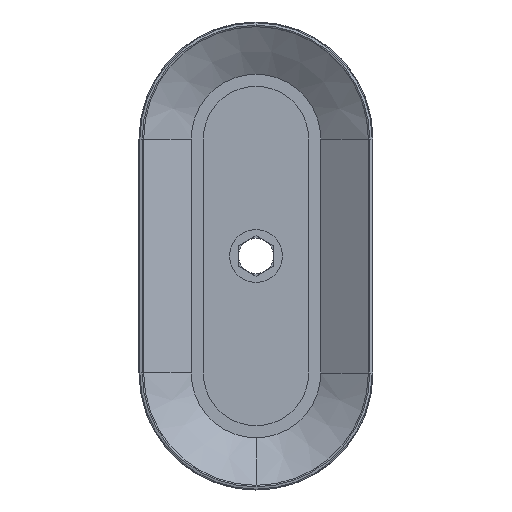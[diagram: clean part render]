
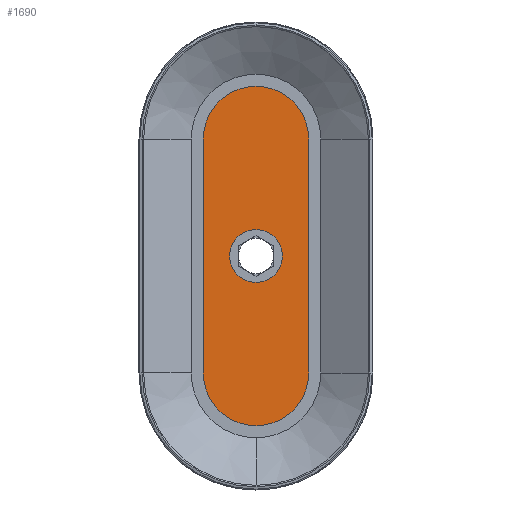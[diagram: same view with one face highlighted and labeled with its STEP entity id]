
A CAD part, front view. The second image highlights one B-rep face of the part: STEP entity #1690.
In plain terms, the highlighted planar face has unit normal (0, -1, 0).
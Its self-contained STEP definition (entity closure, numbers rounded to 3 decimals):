
#145 = VECTOR ( 'NONE', #12159, 1000. ) ;
#239 = DIRECTION ( 'NONE',  ( 0., 1., 0. ) ) ;
#353 = ORIENTED_EDGE ( 'NONE', *, *, #705, .F. ) ;
#398 = EDGE_CURVE ( 'NONE', #5677, #4356, #3032, .T. ) ;
#684 = CIRCLE ( 'NONE', #9903, 4.5 ) ;
#705 = EDGE_CURVE ( 'NONE', #4356, #10436, #730, .T. ) ;
#730 = LINE ( 'NONE', #1007, #145 ) ;
#1007 = CARTESIAN_POINT ( 'NONE',  ( -9., 9., 20. ) ) ;
#1163 = CARTESIAN_POINT ( 'NONE',  ( 0., 9., -20. ) ) ;
#1348 = AXIS2_PLACEMENT_3D ( 'NONE', #4961, #12177, #1954 ) ;
#1626 = EDGE_LOOP ( 'NONE', ( #9231, #2429, #8834, #2498, #353 ) ) ;
#1690 = ADVANCED_FACE ( 'NONE', ( #5406, #4408 ), #3430, .F. ) ;
#1954 = DIRECTION ( 'NONE',  ( 1., 0., 0. ) ) ;
#2207 = DIRECTION ( 'NONE',  ( 1., 0., 0. ) ) ;
#2235 = CARTESIAN_POINT ( 'NONE',  ( -9., 9., 20. ) ) ;
#2410 = DIRECTION ( 'NONE',  ( 0., 0., 1. ) ) ;
#2412 = AXIS2_PLACEMENT_3D ( 'NONE', #7272, #239, #9519 ) ;
#2429 = ORIENTED_EDGE ( 'NONE', *, *, #7472, .F. ) ;
#2498 = ORIENTED_EDGE ( 'NONE', *, *, #7280, .F. ) ;
#2857 = CIRCLE ( 'NONE', #7548, 9. ) ;
#2862 = VERTEX_POINT ( 'NONE', #10794 ) ;
#3032 = CIRCLE ( 'NONE', #8168, 9. ) ;
#3096 = EDGE_CURVE ( 'NONE', #9242, #2862, #12065, .T. ) ;
#3257 = DIRECTION ( 'NONE',  ( 0., 1., 0. ) ) ;
#3430 = PLANE ( 'NONE',  #6942 ) ;
#4325 = LINE ( 'NONE', #12549, #8654 ) ;
#4356 = VERTEX_POINT ( 'NONE', #6228 ) ;
#4408 = FACE_BOUND ( 'NONE', #8193, .T. ) ;
#4739 = DIRECTION ( 'NONE',  ( 0., 1., 0. ) ) ;
#4961 = CARTESIAN_POINT ( 'NONE',  ( 0., 9., 0. ) ) ;
#5232 = DIRECTION ( 'NONE',  ( 0., 0., 1. ) ) ;
#5406 = FACE_OUTER_BOUND ( 'NONE', #1626, .T. ) ;
#5549 = CARTESIAN_POINT ( 'NONE',  ( 0., 9., 20. ) ) ;
#5677 = VERTEX_POINT ( 'NONE', #9828 ) ;
#6057 = EDGE_CURVE ( 'NONE', #6511, #7340, #7758, .T. ) ;
#6223 = EDGE_CURVE ( 'NONE', #7340, #6511, #684, .T. ) ;
#6228 = CARTESIAN_POINT ( 'NONE',  ( -9., 9., -20. ) ) ;
#6388 = ORIENTED_EDGE ( 'NONE', *, *, #6223, .T. ) ;
#6511 = VERTEX_POINT ( 'NONE', #13310 ) ;
#6942 = AXIS2_PLACEMENT_3D ( 'NONE', #9378, #12358, #2410 ) ;
#7272 = CARTESIAN_POINT ( 'NONE',  ( 0., 9., 20. ) ) ;
#7280 = EDGE_CURVE ( 'NONE', #10436, #9242, #2857, .T. ) ;
#7340 = VERTEX_POINT ( 'NONE', #12913 ) ;
#7472 = EDGE_CURVE ( 'NONE', #2862, #5677, #4325, .T. ) ;
#7548 = AXIS2_PLACEMENT_3D ( 'NONE', #5549, #4739, #7693 ) ;
#7693 = DIRECTION ( 'NONE',  ( 0., 0., 1. ) ) ;
#7758 = CIRCLE ( 'NONE', #1348, 4.5 ) ;
#8168 = AXIS2_PLACEMENT_3D ( 'NONE', #1163, #3257, #5232 ) ;
#8189 = ORIENTED_EDGE ( 'NONE', *, *, #6057, .T. ) ;
#8193 = EDGE_LOOP ( 'NONE', ( #8189, #6388 ) ) ;
#8654 = VECTOR ( 'NONE', #9512, 1000. ) ;
#8834 = ORIENTED_EDGE ( 'NONE', *, *, #3096, .F. ) ;
#9231 = ORIENTED_EDGE ( 'NONE', *, *, #398, .F. ) ;
#9242 = VERTEX_POINT ( 'NONE', #9839 ) ;
#9378 = CARTESIAN_POINT ( 'NONE',  ( -0.05, 9., 20. ) ) ;
#9512 = DIRECTION ( 'NONE',  ( 0., 0., -1. ) ) ;
#9519 = DIRECTION ( 'NONE',  ( 0., 0., 1. ) ) ;
#9828 = CARTESIAN_POINT ( 'NONE',  ( 9., 9., -20. ) ) ;
#9839 = CARTESIAN_POINT ( 'NONE',  ( 0., 9., 29. ) ) ;
#9903 = AXIS2_PLACEMENT_3D ( 'NONE', #11285, #11347, #2207 ) ;
#10436 = VERTEX_POINT ( 'NONE', #2235 ) ;
#10794 = CARTESIAN_POINT ( 'NONE',  ( 9., 9., 20. ) ) ;
#11285 = CARTESIAN_POINT ( 'NONE',  ( 0., 9., 0. ) ) ;
#11347 = DIRECTION ( 'NONE',  ( 0., 1., 0. ) ) ;
#12065 = CIRCLE ( 'NONE', #2412, 9. ) ;
#12159 = DIRECTION ( 'NONE',  ( 0., 0., 1. ) ) ;
#12177 = DIRECTION ( 'NONE',  ( 0., 1., 0. ) ) ;
#12358 = DIRECTION ( 'NONE',  ( 0., 1., 0. ) ) ;
#12549 = CARTESIAN_POINT ( 'NONE',  ( 9., 9., 20. ) ) ;
#12913 = CARTESIAN_POINT ( 'NONE',  ( -4.5, 9., 0. ) ) ;
#13310 = CARTESIAN_POINT ( 'NONE',  ( 4.5, 9., 0. ) ) ;
